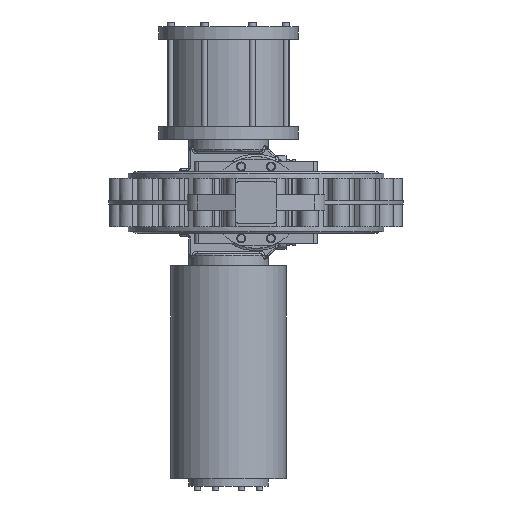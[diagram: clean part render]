
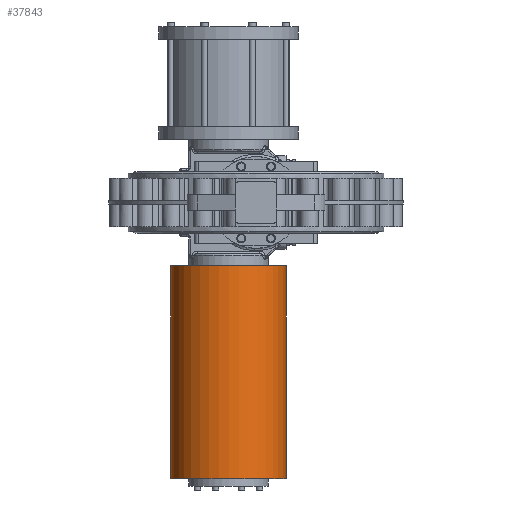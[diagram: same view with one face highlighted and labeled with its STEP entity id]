
A CAD part, front view. The second image highlights one B-rep face of the part: STEP entity #37843.
In plain terms, the highlighted cylindrical face has radius 188.5 mm (diameter 377 mm), a partial arc.
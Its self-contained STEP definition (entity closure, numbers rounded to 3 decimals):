
#923 = DIRECTION ( 'NONE',  ( 0., 0., -1. ) ) ;
#1168 = EDGE_CURVE ( 'NONE', #1637, #26848, #35581, .T. ) ;
#1583 = ORIENTED_EDGE ( 'NONE', *, *, #3853, .T. ) ;
#1586 = DIRECTION ( 'NONE',  ( 1., 0., 0. ) ) ;
#1637 = VERTEX_POINT ( 'NONE', #40160 ) ;
#2422 = LINE ( 'NONE', #6218, #20491 ) ;
#3159 = ORIENTED_EDGE ( 'NONE', *, *, #21399, .T. ) ;
#3853 = EDGE_CURVE ( 'NONE', #38214, #16079, #11667, .T. ) ;
#4708 = CYLINDRICAL_SURFACE ( 'NONE', #29798, 188.5 ) ;
#6218 = CARTESIAN_POINT ( 'NONE',  ( 0., 0., -188.5 ) ) ;
#7785 = CARTESIAN_POINT ( 'NONE',  ( 903., 0., -188.5 ) ) ;
#8068 = EDGE_LOOP ( 'NONE', ( #28733, #1583, #3159, #13185 ) ) ;
#9252 = CARTESIAN_POINT ( 'NONE',  ( 0., 0., 188.5 ) ) ;
#11667 = CIRCLE ( 'NONE', #36728, 188.5 ) ;
#13185 = ORIENTED_EDGE ( 'NONE', *, *, #1168, .F. ) ;
#16079 = VERTEX_POINT ( 'NONE', #18032 ) ;
#16831 = LINE ( 'NONE', #9252, #33310 ) ;
#17465 = CARTESIAN_POINT ( 'NONE',  ( 207., 0., 0. ) ) ;
#18032 = CARTESIAN_POINT ( 'NONE',  ( 207., 0., -188.5 ) ) ;
#18127 = FACE_OUTER_BOUND ( 'NONE', #8068, .T. ) ;
#18983 = CARTESIAN_POINT ( 'NONE',  ( 207., 0., 188.5 ) ) ;
#20491 = VECTOR ( 'NONE', #36471, 1000. ) ;
#20553 = DIRECTION ( 'NONE',  ( 0., 0., -1. ) ) ;
#20770 = DIRECTION ( 'NONE',  ( 1., 0., 0. ) ) ;
#21399 = EDGE_CURVE ( 'NONE', #16079, #26848, #2422, .T. ) ;
#22128 = CARTESIAN_POINT ( 'NONE',  ( 0., 0., 0. ) ) ;
#24645 = DIRECTION ( 'NONE',  ( 0., 0., -1. ) ) ;
#26238 = AXIS2_PLACEMENT_3D ( 'NONE', #34246, #20770, #20553 ) ;
#26848 = VERTEX_POINT ( 'NONE', #7785 ) ;
#28010 = DIRECTION ( 'NONE',  ( 1., 0., 0. ) ) ;
#28733 = ORIENTED_EDGE ( 'NONE', *, *, #29215, .F. ) ;
#29215 = EDGE_CURVE ( 'NONE', #38214, #1637, #16831, .T. ) ;
#29798 = AXIS2_PLACEMENT_3D ( 'NONE', #22128, #1586, #923 ) ;
#33310 = VECTOR ( 'NONE', #37454, 1000. ) ;
#34246 = CARTESIAN_POINT ( 'NONE',  ( 903., 0., 0. ) ) ;
#35581 = CIRCLE ( 'NONE', #26238, 188.5 ) ;
#36471 = DIRECTION ( 'NONE',  ( 1., 0., 0. ) ) ;
#36728 = AXIS2_PLACEMENT_3D ( 'NONE', #17465, #28010, #24645 ) ;
#37454 = DIRECTION ( 'NONE',  ( 1., 0., 0. ) ) ;
#37843 = ADVANCED_FACE ( 'NONE', ( #18127 ), #4708, .T. ) ;
#38214 = VERTEX_POINT ( 'NONE', #18983 ) ;
#40160 = CARTESIAN_POINT ( 'NONE',  ( 903., 0., 188.5 ) ) ;
